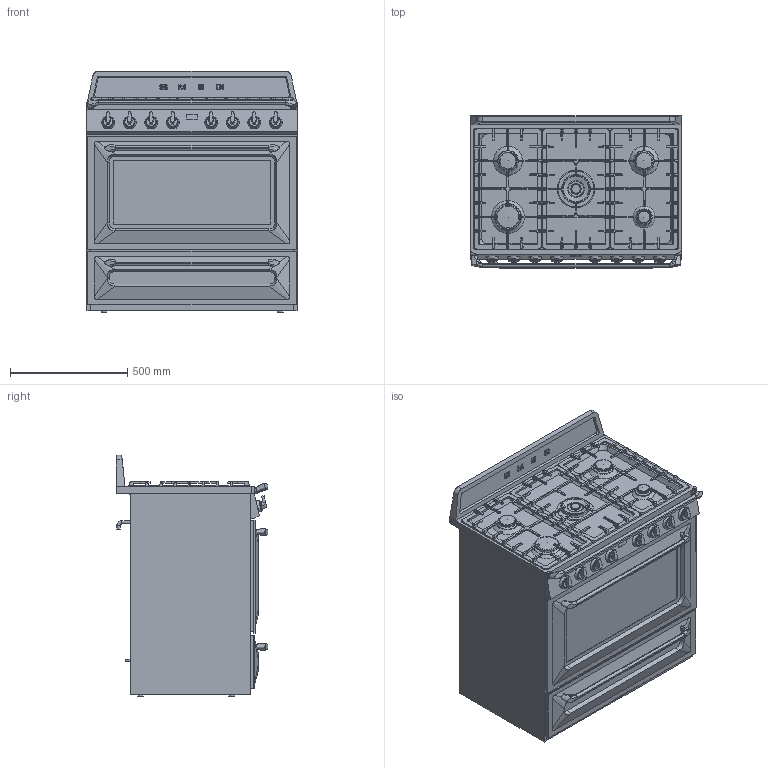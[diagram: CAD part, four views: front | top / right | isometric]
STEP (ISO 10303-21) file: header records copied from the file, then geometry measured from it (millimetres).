
FILE_DESCRIPTION(/* description */ ('Unknown'),/* implementation_level */ '2;1');
FILE_NAME(/* name */ 'TRA90BLP2',/* time_stamp */ '2025-04-29T08:08:45+02:00',/* author */ ('Unknown'),/* organization */ ('Unknown'),/* preprocessor_version */ 'ST-DEVELOPER v16.7',/* originating_system */ 'DEX',/* authorisation */ $);
FILE_SCHEMA (('AUTOMOTIVE_DESIGN {1 0 10303 214 3 1 1}'));
Products named in the file (1): TRA90BLP2
Bounding box: 902.66 x 649.07 x 1032.42 mm (x, y, z)
Volume: 422196232 mm3; surface area: 4883893.6 mm2
Topology: 18 solids, 19 shells, 1437 faces, 4017 edges, 2662 vertices
Faces by surface type: plane 725, cylinder 385, bspline 231, cone 79, torus 14, sphere 3
Full cylindrical faces by diameter (mm): 10 x1, 14 x2, 25 x4, 43.084 x8, 45 x1, 55 x1, 65.5 x1, 66 x1, 70 x1, 75 x2, 85.5 x2, 100 x1, 110.5 x1, 123 x1
Entity records: 69077 total; most frequent: CARTESIAN_POINT 29872, ORIENTED_EDGE 7734, DIRECTION 6281, EDGE_CURVE 3867, VERTEX_POINT 2600, LINE 2191, VECTOR 2191, AXIS2_PLACEMENT_3D 2045
